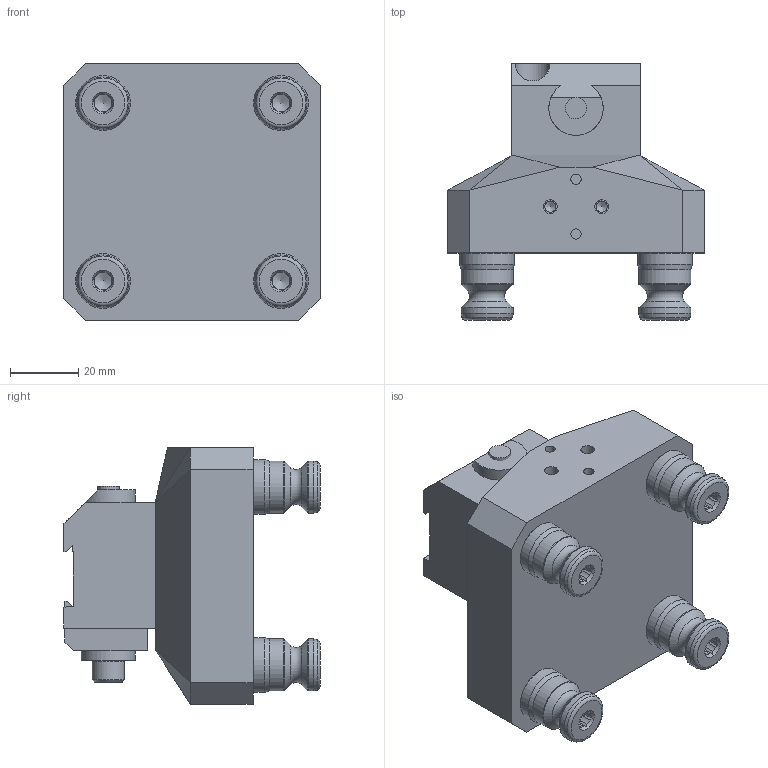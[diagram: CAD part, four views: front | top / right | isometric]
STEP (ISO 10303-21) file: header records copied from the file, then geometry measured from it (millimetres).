
FILE_DESCRIPTION (( 'STEP AP214' ), '1' );
FILE_NAME ('A52-D115_WEBSITE.STEP', '2025-08-13T04:59:38', ( '' ), ( '' ), 'SwSTEP 2.0', 'SolidWorks 2025', '' );
FILE_SCHEMA (( 'AUTOMOTIVE_DESIGN' ));
Length unit declared in the file: inch
Products named in the file (13): A52-D115-1_WEBSITE; D_CDS25_WEBSITE_MILL OP2; PS16F_WEBSITE; D_HW.73072_WEBSITE; D_LP250_WEBSITE; PS16F-1_WEBSITE_HARD TURN; D_SLD25_WEBSITE_SLD25; M8X20.FPSS_WEBSITE_93245A145; D_D115-1_WEBSITE; A52-D115_WEBSITE; D_HW.0250.FW_WEBSITE; D_91251A441_BLACK-OXIDE ALLOY STEEL SOCKET HEAD CAP SCREW_WEBSITE_91251A441; D_D115_WEBSITE_Owner''s Manual Explosion
Assembly tree (18 placements, depth 3):
  A52-D115_WEBSITE
    A52-D115-1_WEBSITE
    D_D115_WEBSITE_Owner''s Manual Explosion
      D_D115-1_WEBSITE
      D_LP250_WEBSITE  x3
      D_CDS25_WEBSITE_MILL OP2
      D_SLD25_WEBSITE_SLD25
      D_HW.0250.FW_WEBSITE
      D_HW.73072_WEBSITE
      D_91251A441_BLACK-OXIDE ALLOY STEEL SOCKET HEAD CAP SCREW_WEBSITE_91251A441  x2
    PS16F_WEBSITE  x4
      PS16F-1_WEBSITE_HARD TURN
      M8X20.FPSS_WEBSITE_93245A145
Bounding box: 75 x 74.8 x 75 mm (x, y, z)
Volume: 184733.6 mm3; surface area: 49259.6 mm2
Topology: 19 solids, 19 shells, 424 faces, 932 edges, 584 vertices
Faces by surface type: plane 232, cylinder 82, cone 82, torus 28
Full cylindrical faces by diameter (mm): 3.023 x2, 3.3 x2, 3.759 x3, 4 x2, 4.039 x2, 5.25 x4, 5.41 x3, 6.35 x6, 6.365 x3, 6.38 x2, 6.604 x1, 6.756 x3, 6.8 x8, 7.144 x1, 8 x8, 9.525 x4, 10.033 x2, 11.991 x4, 12.017 x4, 12.69 x1, 12.738 x2, 12.802 x1, 15.202 x8, 15.875 x1, 15.997 x4
Entity records: 6451 total; most frequent: CARTESIAN_POINT 1079, DIRECTION 989, ORIENTED_EDGE 744, AXIS2_PLACEMENT_3D 395, EDGE_CURVE 372, EDGE_LOOP 349, FACE_OUTER_BOUND 284, VERTEX_POINT 275
